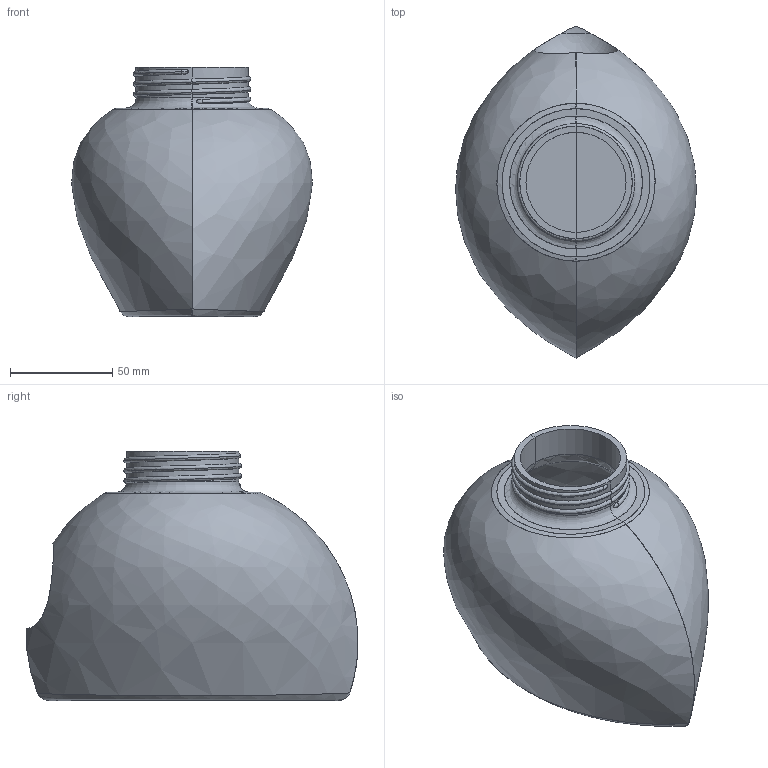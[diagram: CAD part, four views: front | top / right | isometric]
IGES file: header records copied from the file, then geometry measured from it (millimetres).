
Start section: START RECORD GO HERE.
Global section: file name: c1-Azua_Ruiz-Falco_Cristina_de-solucion-posible.igs; native system: IBM CATIA IGES - CATIA Version 5 Release 19 ; preprocessor: CATIA Version 5 Release 19 ; author: andres.garcia; organization: IQS; date: 20200131.143907; units: millimetre
Bounding box: 117.84 x 162.44 x 122 mm (x, y, z)
Surface area: 107750.8 mm2 (no closed solid volume)
Topology: 0 solids, 0 shells, 54 faces, 252 edges, 248 vertices
Faces by surface type: bspline 32, revolution 16, plane 6
